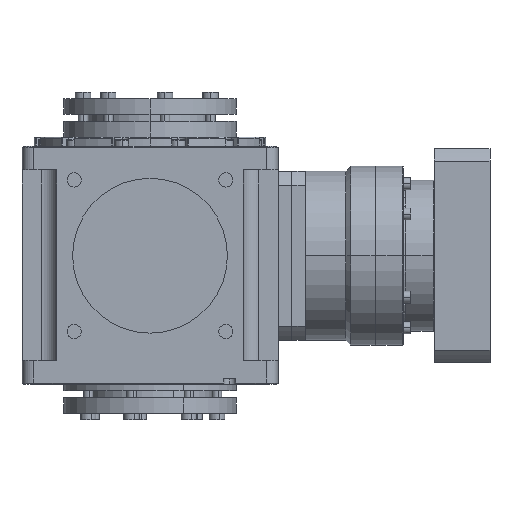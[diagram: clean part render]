
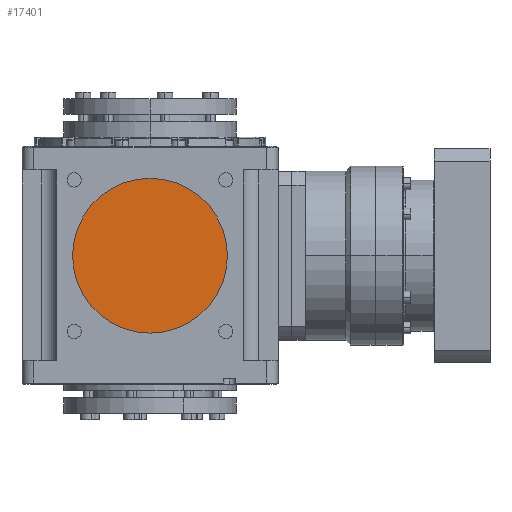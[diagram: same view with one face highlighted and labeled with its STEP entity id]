
A CAD part, left-side view. The second image highlights one B-rep face of the part: STEP entity #17401.
In plain terms, the highlighted planar face has unit normal (-1, 0, 0).
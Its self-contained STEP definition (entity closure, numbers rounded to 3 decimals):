
#1229 = DIRECTION ( 'NONE',  ( 0., -1., 0. ) ) ;
#1898 = CARTESIAN_POINT ( 'NONE',  ( -102.5, 0., 0. ) ) ;
#2494 = CIRCLE ( 'NONE', #17749, 65. ) ;
#3548 = DIRECTION ( 'NONE',  ( -1., 0., 0. ) ) ;
#3887 = CARTESIAN_POINT ( 'NONE',  ( -102.5, 0., 0. ) ) ;
#8540 = DIRECTION ( 'NONE',  ( 0., -1., 0. ) ) ;
#10026 = EDGE_CURVE ( 'NONE', #21651, #23184, #10954, .T. ) ;
#10471 = ORIENTED_EDGE ( 'NONE', *, *, #10026, .T. ) ;
#10954 = CIRCLE ( 'NONE', #27165, 65. ) ;
#12077 = EDGE_LOOP ( 'NONE', ( #10471, #24614 ) ) ;
#13243 = DIRECTION ( 'NONE',  ( -1., 0., 0. ) ) ;
#17401 = ADVANCED_FACE ( 'NONE', ( #28390 ), #23903, .T. ) ;
#17749 = AXIS2_PLACEMENT_3D ( 'NONE', #3887, #13243, #19240 ) ;
#17823 = EDGE_CURVE ( 'NONE', #23184, #21651, #2494, .T. ) ;
#19022 = AXIS2_PLACEMENT_3D ( 'NONE', #1898, #19420, #8540 ) ;
#19240 = DIRECTION ( 'NONE',  ( 0., -1., 0. ) ) ;
#19420 = DIRECTION ( 'NONE',  ( -1., 0., 0. ) ) ;
#21589 = CARTESIAN_POINT ( 'NONE',  ( -102.5, -65., 0. ) ) ;
#21651 = VERTEX_POINT ( 'NONE', #21589 ) ;
#21981 = CARTESIAN_POINT ( 'NONE',  ( -102.5, 65., 0. ) ) ;
#23184 = VERTEX_POINT ( 'NONE', #21981 ) ;
#23536 = CARTESIAN_POINT ( 'NONE',  ( -102.5, 0., 0. ) ) ;
#23903 = PLANE ( 'NONE',  #19022 ) ;
#24614 = ORIENTED_EDGE ( 'NONE', *, *, #17823, .T. ) ;
#27165 = AXIS2_PLACEMENT_3D ( 'NONE', #23536, #3548, #1229 ) ;
#28390 = FACE_OUTER_BOUND ( 'NONE', #12077, .T. ) ;
